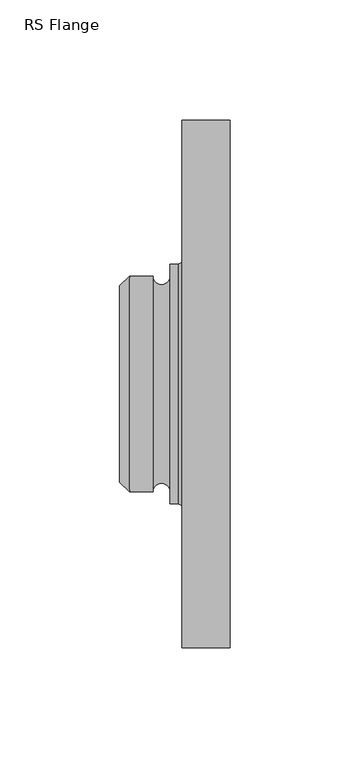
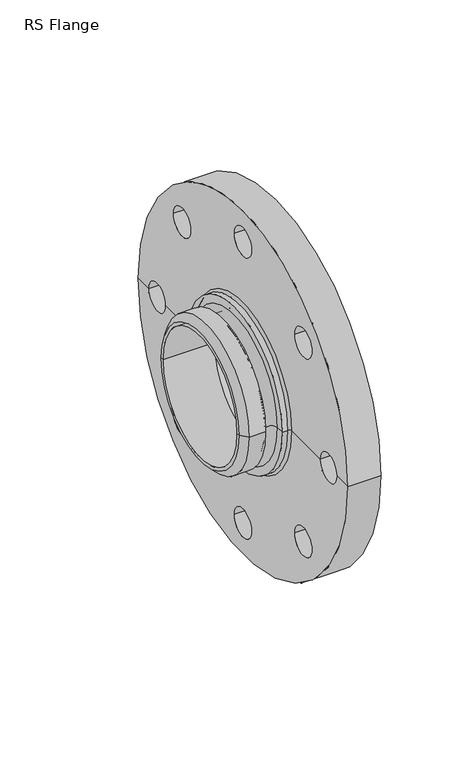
"""IFC4 building model written with IfcOpenShell, lengths in millimetres: pipe fitting geometry, RS Flange : Superpipe Flange Adapter - RS3 DN100 (PN16)."""

from ifc_helpers import new_model, si_unit, point, frame, origin, place, context, project, spatial, polyline, circle_curve, ellipse_curve, trimmed, source, transform, mapped, element, save
from ifc_brep_helpers import plane_surface, cylinder_surface, revolved_surface, advanced_brep


def rs_flange_74e88712(model_context):
    return source(origin(), model_context, "Body", "AdvancedBrep", [
        advanced_brep(
        [(0.0, -39.0, 0.0), (0.0, 39.0, 0.0), (0.0, 41.0, 0.0), (0.0, -41.0, 0.0), (31.0748159, -39.0, 0.0), (31.0748159, 39.0, 0.0), (46.0, -110.0, 0.0), (46.0, 110.0, 0.0), (46.0, 99.0, 0.0), (46.0, 81.0, 0.0), (46.0, 47.0, 0.0), (46.0, -47.0, 0.0), (46.0, -81.0, 0.0), (46.0, -99.0, 0.0), (46.0, 72.890873, -63.3883476), (46.0, 54.890873, -63.3883476), (46.0, 9.0, -90.0), (46.0, -9.0, -90.0), (46.0, -54.3883476, -63.3883476), (46.0, -72.3883476, -63.3883476), (46.0, -54.3883476, 63.890873), (46.0, -72.3883476, 63.890873), (46.0, 9.0, 90.0), (46.0, -9.0, 90.0), (46.0, 72.890873, 63.890873), (46.0, 54.890873, 63.890873), (26.0, -110.0, 0.0), (26.0, 110.0, 0.0), (26.0, -99.0, 0.0), (26.0, -81.0, 0.0), (26.0, -51.5, 0.0), (26.0, 51.5, 0.0), (26.0, 81.0, 0.0), (26.0, 99.0, 0.0), (26.0, 54.890873, -63.3883476), (26.0, 72.890873, -63.3883476), (26.0, -9.0, -90.0), (26.0, 9.0, -90.0), (26.0, -72.3883476, -63.3883476), (26.0, -54.3883476, -63.3883476), (26.0, -72.3883476, 63.890873), (26.0, -54.3883476, 63.890873), (26.0, -9.0, 90.0), (26.0, 9.0, 90.0), (26.0, 54.890873, 63.890873), (26.0, 72.890873, 63.890873), (24.5, -50.0, 0.0), (24.5, 50.0, 0.0), (21.0, -50.0, 0.0), (21.0, 50.0, 0.0), (21.0, -45.0, 0.0), (21.0, 45.0, 0.0), (13.8, -45.0, 0.0), (13.8, 45.0, 0.0), (4.0, -45.0, 0.0), (4.0, 45.0, 0.0)],
        [
            (0, 1, circle_curve(frame((0.0, 0.0, 0.0), z_axis=(1.0, 0.0, 0.0), x_axis=(0.0, 1.0, 0.0)), 39.0)),
            (1, 2),
            (2, 3, circle_curve(frame((0.0, 0.0, 0.0), z_axis=(-1.0, 0.0, 0.0), x_axis=(0.0, 1.0, 0.0)), 41.0)),
            (3, 0),
            (1, 0, circle_curve(frame((0.0, 0.0, 0.0), z_axis=(1.0, 0.0, 0.0), x_axis=(0.0, 1.0, 0.0)), 39.0)),
            (3, 2, circle_curve(frame((0.0, 0.0, 0.0), z_axis=(-1.0, 0.0, 0.0), x_axis=(0.0, 1.0, 0.0)), 41.0)),
            (0, 4),
            (4, 5, circle_curve(frame((31.0748159, 0.0, 0.0), z_axis=(1.0, 0.0, 0.0), x_axis=(0.0, 1.0, 0.0)), 39.0)),
            (5, 1),
            (5, 4, circle_curve(frame((31.0748159, 0.0, 0.0), z_axis=(1.0, 0.0, 0.0), x_axis=(0.0, 1.0, 0.0)), 39.0)),
            (6, 7, circle_curve(frame((46.0, 0.0, 0.0), z_axis=(1.0, 0.0, 0.0), x_axis=(0.0, 1.0, 0.0)), 110.0)),
            (7, 8),
            (8, 9, circle_curve(frame((46.0, 90.0, 0.0), z_axis=(-1.0, 0.0, 0.0), x_axis=(0.0, -1.0, 0.0)), 9.0)),
            (9, 10),
            (10, 11, circle_curve(frame((46.0, 0.0, 0.0), z_axis=(-1.0, 0.0, 0.0), x_axis=(0.0, 1.0, 0.0)), 47.0)),
            (11, 12),
            (12, 13, circle_curve(frame((46.0, -90.0, 0.0), z_axis=(-1.0, 0.0, 0.0), x_axis=(0.0, -1.0, 0.0)), 9.0)),
            (13, 6),
            (14, 15, circle_curve(frame((46.0, 63.890873, -63.3883476), z_axis=(-1.0, 0.0, 0.0), x_axis=(0.0, -1.0, 0.0)), 9.0)),
            (15, 14, circle_curve(frame((46.0, 63.890873, -63.3883476), z_axis=(-1.0, 0.0, 0.0), x_axis=(0.0, -1.0, 0.0)), 9.0)),
            (16, 17, circle_curve(frame((46.0, 0.0, -90.0), z_axis=(-1.0, 0.0, 0.0), x_axis=(0.0, -1.0, 0.0)), 9.0)),
            (17, 16, circle_curve(frame((46.0, 0.0, -90.0), z_axis=(-1.0, 0.0, 0.0), x_axis=(0.0, -1.0, 0.0)), 9.0)),
            (18, 19, circle_curve(frame((46.0, -63.3883476, -63.3883476), z_axis=(-1.0, 0.0, 0.0), x_axis=(0.0, -1.0, 0.0)), 9.0)),
            (19, 18, circle_curve(frame((46.0, -63.3883476, -63.3883476), z_axis=(-1.0, 0.0, 0.0), x_axis=(0.0, -1.0, 0.0)), 9.0)),
            (7, 6, circle_curve(frame((46.0, 0.0, 0.0), z_axis=(1.0, 0.0, 0.0), x_axis=(0.0, 1.0, 0.0)), 110.0)),
            (13, 12, circle_curve(frame((46.0, -90.0, 0.0), z_axis=(-1.0, 0.0, 0.0), x_axis=(0.0, -1.0, 0.0)), 9.0)),
            (11, 10, circle_curve(frame((46.0, 0.0, 0.0), z_axis=(-1.0, 0.0, 0.0), x_axis=(0.0, 1.0, 0.0)), 47.0)),
            (9, 8, circle_curve(frame((46.0, 90.0, 0.0), z_axis=(-1.0, 0.0, 0.0), x_axis=(0.0, -1.0, 0.0)), 9.0)),
            (20, 21, circle_curve(frame((46.0, -63.3883476, 63.890873), z_axis=(-1.0, 0.0, 0.0), x_axis=(0.0, -1.0, 0.0)), 9.0)),
            (21, 20, circle_curve(frame((46.0, -63.3883476, 63.890873), z_axis=(-1.0, 0.0, 0.0), x_axis=(0.0, -1.0, 0.0)), 9.0)),
            (22, 23, circle_curve(frame((46.0, 0.0, 90.0), z_axis=(-1.0, 0.0, 0.0), x_axis=(0.0, -1.0, 0.0)), 9.0)),
            (23, 22, circle_curve(frame((46.0, 0.0, 90.0), z_axis=(-1.0, 0.0, 0.0), x_axis=(0.0, -1.0, 0.0)), 9.0)),
            (24, 25, circle_curve(frame((46.0, 63.890873, 63.890873), z_axis=(-1.0, 0.0, 0.0), x_axis=(0.0, -1.0, 0.0)), 9.0)),
            (25, 24, circle_curve(frame((46.0, 63.890873, 63.890873), z_axis=(-1.0, 0.0, 0.0), x_axis=(0.0, -1.0, 0.0)), 9.0)),
            (6, 26),
            (26, 27, circle_curve(frame((26.0, 0.0, 0.0), z_axis=(1.0, 0.0, 0.0), x_axis=(0.0, 1.0, 0.0)), 110.0)),
            (27, 7),
            (27, 26, circle_curve(frame((26.0, 0.0, 0.0), z_axis=(1.0, 0.0, 0.0), x_axis=(0.0, 1.0, 0.0)), 110.0)),
            (26, 28),
            (28, 29, circle_curve(frame((26.0, -90.0, 0.0), z_axis=(1.0, 0.0, 0.0), x_axis=(0.0, -1.0, 0.0)), 9.0)),
            (29, 30),
            (30, 31, circle_curve(frame((26.0, 0.0, 0.0), z_axis=(1.0, 0.0, 0.0), x_axis=(0.0, 1.0, 0.0)), 51.5)),
            (31, 32),
            (32, 33, circle_curve(frame((26.0, 90.0, 0.0), z_axis=(1.0, 0.0, 0.0), x_axis=(0.0, -1.0, 0.0)), 9.0)),
            (33, 27),
            (34, 35, circle_curve(frame((26.0, 63.890873, -63.3883476), z_axis=(1.0, 0.0, 0.0), x_axis=(0.0, -1.0, 0.0)), 9.0)),
            (35, 34, circle_curve(frame((26.0, 63.890873, -63.3883476), z_axis=(1.0, 0.0, 0.0), x_axis=(0.0, -1.0, 0.0)), 9.0)),
            (36, 37, circle_curve(frame((26.0, 0.0, -90.0), z_axis=(1.0, 0.0, 0.0), x_axis=(0.0, -1.0, 0.0)), 9.0)),
            (37, 36, circle_curve(frame((26.0, 0.0, -90.0), z_axis=(1.0, 0.0, 0.0), x_axis=(0.0, -1.0, 0.0)), 9.0)),
            (38, 39, circle_curve(frame((26.0, -63.3883476, -63.3883476), z_axis=(1.0, 0.0, 0.0), x_axis=(0.0, -1.0, 0.0)), 9.0)),
            (39, 38, circle_curve(frame((26.0, -63.3883476, -63.3883476), z_axis=(1.0, 0.0, 0.0), x_axis=(0.0, -1.0, 0.0)), 9.0)),
            (33, 32, circle_curve(frame((26.0, 90.0, 0.0), z_axis=(1.0, 0.0, 0.0), x_axis=(0.0, -1.0, 0.0)), 9.0)),
            (31, 30, circle_curve(frame((26.0, 0.0, 0.0), z_axis=(1.0, 0.0, 0.0), x_axis=(0.0, 1.0, 0.0)), 51.5)),
            (29, 28, circle_curve(frame((26.0, -90.0, 0.0), z_axis=(1.0, 0.0, 0.0), x_axis=(0.0, -1.0, 0.0)), 9.0)),
            (40, 41, circle_curve(frame((26.0, -63.3883476, 63.890873), z_axis=(1.0, 0.0, 0.0), x_axis=(0.0, -1.0, 0.0)), 9.0)),
            (41, 40, circle_curve(frame((26.0, -63.3883476, 63.890873), z_axis=(1.0, 0.0, 0.0), x_axis=(0.0, -1.0, 0.0)), 9.0)),
            (42, 43, circle_curve(frame((26.0, 0.0, 90.0), z_axis=(1.0, 0.0, 0.0), x_axis=(0.0, -1.0, 0.0)), 9.0)),
            (43, 42, circle_curve(frame((26.0, 0.0, 90.0), z_axis=(1.0, 0.0, 0.0), x_axis=(0.0, -1.0, 0.0)), 9.0)),
            (44, 45, circle_curve(frame((26.0, 63.890873, 63.890873), z_axis=(1.0, 0.0, 0.0), x_axis=(0.0, -1.0, 0.0)), 9.0)),
            (45, 44, circle_curve(frame((26.0, 63.890873, 63.890873), z_axis=(1.0, 0.0, 0.0), x_axis=(0.0, -1.0, 0.0)), 9.0)),
            (30, 46, circle_curve(frame((24.5, -51.5, 0.0), z_axis=(0.0, 0.0, 1.0), x_axis=(1.0, 0.0, 0.0)), 1.5)),
            (46, 47, circle_curve(frame((24.5, 0.0, 0.0), z_axis=(1.0, 0.0, 0.0), x_axis=(0.0, 1.0, 0.0)), 50.0)),
            (47, 31, circle_curve(frame((24.5, 51.5, 0.0), z_axis=(0.0, 0.0, 1.0), x_axis=(1.0, 0.0, 0.0)), 1.5)),
            (47, 46, circle_curve(frame((24.5, 0.0, 0.0), z_axis=(1.0, 0.0, 0.0), x_axis=(0.0, 1.0, 0.0)), 50.0)),
            (46, 48),
            (48, 49, circle_curve(frame((21.0, 0.0, 0.0), z_axis=(1.0, 0.0, 0.0), x_axis=(0.0, 1.0, 0.0)), 50.0)),
            (49, 47),
            (49, 48, circle_curve(frame((21.0, 0.0, 0.0), z_axis=(1.0, 0.0, 0.0), x_axis=(0.0, 1.0, 0.0)), 50.0)),
            (48, 50),
            (50, 51, circle_curve(frame((21.0, 0.0, 0.0), z_axis=(1.0, 0.0, 0.0), x_axis=(0.0, 1.0, 0.0)), 45.0)),
            (51, 49),
            (51, 50, circle_curve(frame((21.0, 0.0, 0.0), z_axis=(1.0, 0.0, 0.0), x_axis=(0.0, 1.0, 0.0)), 45.0)),
            (50, 52, circle_curve(frame((17.4, -45.0, 0.0), z_axis=(0.0, 0.0, 1.0), x_axis=(1.0, 0.0, 0.0)), 3.6)),
            (52, 53, circle_curve(frame((13.8, 0.0, 0.0), z_axis=(1.0, 0.0, 0.0), x_axis=(0.0, 1.0, 0.0)), 45.0)),
            (53, 51, circle_curve(frame((17.4, 45.0, 0.0), z_axis=(0.0, 0.0, 1.0), x_axis=(1.0, 0.0, 0.0)), 3.6)),
            (53, 52, circle_curve(frame((13.8, 0.0, 0.0), z_axis=(1.0, 0.0, 0.0), x_axis=(0.0, 1.0, 0.0)), 45.0)),
            (52, 54),
            (54, 55, circle_curve(frame((4.0, 0.0, 0.0), z_axis=(1.0, 0.0, 0.0), x_axis=(0.0, 1.0, 0.0)), 45.0)),
            (55, 53),
            (55, 54, circle_curve(frame((4.0, 0.0, 0.0), z_axis=(1.0, 0.0, 0.0), x_axis=(0.0, 1.0, 0.0)), 45.0)),
            (2, 55),
            (54, 3),
            (28, 13),
            (12, 29),
            (20, 41),
            (40, 21),
            (42, 23),
            (22, 43),
            (24, 45),
            (44, 25),
            (32, 9),
            (8, 33),
            (14, 35),
            (34, 15),
            (36, 17),
            (16, 37),
            (18, 39),
            (38, 19),
            (4, 11),
            (10, 5),
        ],
        [
            plane_surface(frame((0.0, 0.0, 0.0), z_axis=(-1.0, 0.0, 0.0), x_axis=(0.0, 1.0, 0.0))),
            revolved_surface(polyline([(0.0, 39.0, 0.0), (31.074815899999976, 39.0, 0.0)]), (2000.0, 0.0, 0.0), (-1.0, 0.0, 0.0)),
            plane_surface(frame((46.0, 0.0, 0.0), z_axis=(1.0, 0.0, 0.0), x_axis=(0.0, 1.0, 0.0))),
            cylinder_surface(frame((2000.0, 0.0, 0.0), z_axis=(-1.0, 0.0, 0.0), x_axis=(0.0, 1.0, 0.0)), 110.0),
            plane_surface(frame((26.0, 0.0, 0.0), z_axis=(-1.0, 0.0, 0.0), x_axis=(0.0, 1.0, 0.0))),
            revolved_surface(trimmed(ellipse_curve(frame((24.5, 51.5, 0.0), z_axis=(0.0, 0.0, -1.0), x_axis=(1.0, 0.0, 0.0)), 1.5, 1.5), [point((26.0, 51.5, 0.0))], [point((24.5, 50.0, 0.0))], True, "CARTESIAN"), (2000.0, 0.0, 0.0), (-1.0, 0.0, 0.0)),
            cylinder_surface(frame((2000.0, 0.0, 0.0), z_axis=(-1.0, 0.0, 0.0), x_axis=(0.0, 1.0, 0.0)), 50.0),
            plane_surface(frame((21.0, 0.0, 0.0), z_axis=(-1.0, 0.0, 0.0), x_axis=(0.0, 1.0, 0.0))),
            revolved_surface(trimmed(ellipse_curve(frame((17.4, 45.0, 0.0), z_axis=(0.0, 0.0, -1.0), x_axis=(1.0, 0.0, 0.0)), 3.6, 3.6), [point((21.0, 45.0, 0.0))], [point((13.8, 45.0, 0.0))], True, "CARTESIAN"), (2000.0, 0.0, 0.0), (-1.0, 0.0, 0.0)),
            cylinder_surface(frame((2000.0, 0.0, 0.0), z_axis=(-1.0, 0.0, 0.0), x_axis=(0.0, 1.0, 0.0)), 45.0),
            revolved_surface(polyline([(4.0, 45.0, 0.0), (0.0, 41.0, 0.0)]), (2000.0, 0.0, 0.0), (-1.0, 0.0, 0.0)),
            revolved_surface(polyline([(26.0, -99.0, 0.0), (46.0, -99.0, 0.0)]), (46.0, -90.0, 0.0), (-1.0, 0.0, 0.0)),
            revolved_surface(polyline([(26.0, -72.3883476, 63.890873), (46.0, -72.3883476, 63.890873)]), (145.0, -63.3883476, 63.890873), (-1.0, 0.0, 0.0)),
            revolved_surface(polyline([(26.0, -9.0, 90.0), (46.0, -9.0, 90.0)]), (46.0, 0.0, 90.0), (-1.0, 0.0, 0.0)),
            revolved_surface(polyline([(26.0, 54.890873, 63.890873), (46.0, 54.890873, 63.890873)]), (145.0, 63.890873, 63.890873), (-1.0, 0.0, 0.0)),
            revolved_surface(polyline([(26.0, 81.0, 0.0), (46.0, 81.0, 0.0)]), (46.0, 90.0, 0.0), (-1.0, 0.0, 0.0)),
            revolved_surface(polyline([(26.0, 54.890873, -63.3883476), (46.0, 54.890873, -63.3883476)]), (145.0, 63.890873, -63.3883476), (-1.0, 0.0, 0.0)),
            revolved_surface(polyline([(26.0, -9.0, -90.0), (46.0, -9.0, -90.0)]), (46.0, 0.0, -90.0), (-1.0, 0.0, 0.0)),
            revolved_surface(polyline([(26.0, -72.3883476, -63.3883476), (46.0, -72.3883476, -63.3883476)]), (145.0, -63.3883476, -63.3883476), (-1.0, 0.0, 0.0)),
            revolved_surface(polyline([(31.0748159, 39.0, 0.0), (46.0, 47.0, 0.0)]), (2000.0, 0.0, 0.0), (-1.0, 0.0, 0.0)),
        ],
        [
            (0, [[1, 2, 3, 4]]),
            (0, [[-2, 5, -4, 6]]),
            (1, [[-1, 7, 8, 9]]),
            (1, [[-5, -9, 10, -7]]),
            (2, [[11, 12, 13, 14, 15, 16, 17, 18], [19, 20], [21, 22], [23, 24]]),
            (2, [[25, -18, 26, -16, 27, -14, 28, -12], [29, 30], [31, 32], [33, 34]]),
            (3, [[-11, 35, 36, 37]]),
            (3, [[-25, -37, 38, -35]]),
            (4, [[-36, 39, 40, 41, 42, 43, 44, 45], [46, 47], [48, 49], [50, 51]]),
            (4, [[-38, -45, 52, -43, 53, -41, 54, -39], [55, 56], [57, 58], [59, 60]]),
            (5, [[-42, 61, 62, 63]]),
            (5, [[-53, -63, 64, -61]]),
            (6, [[-62, 65, 66, 67]]),
            (6, [[-64, -67, 68, -65]]),
            (7, [[-66, 69, 70, 71]]),
            (7, [[-68, -71, 72, -69]]),
            (8, [[-70, 73, 74, 75]]),
            (8, [[-72, -75, 76, -73]]),
            (9, [[-74, 77, 78, 79]]),
            (9, [[-76, -79, 80, -77]]),
            (10, [[-3, 81, -78, 82]]),
            (10, [[-6, -82, -80, -81]]),
            (11, [[83, -17, 84, -40]]),
            (11, [[-83, -54, -84, -26]]),
            (12, [[85, -55, 86, -29]]),
            (12, [[-85, -30, -86, -56]]),
            (13, [[87, -31, 88, -57]]),
            (13, [[-87, -58, -88, -32]]),
            (14, [[89, -59, 90, -33]]),
            (14, [[-89, -34, -90, -60]]),
            (15, [[91, -13, 92, -44]]),
            (15, [[-91, -52, -92, -28]]),
            (16, [[93, -46, 94, -19]]),
            (16, [[-93, -20, -94, -47]]),
            (17, [[95, -21, 96, -48]]),
            (17, [[-95, -49, -96, -22]]),
            (18, [[97, -50, 98, -23]]),
            (18, [[-97, -24, -98, -51]]),
            (19, [[-8, 99, -15, 100]]),
            (19, [[-10, -100, -27, -99]]),
        ],
    ),
    ])


if __name__ == "__main__":
    model = new_model("IFC4")
    model_context = context("Model", 3, world=origin())
    ifc_project = project(units=[si_unit("LENGTHUNIT", "METRE", prefix="MILLI")], contexts=[model_context])
    site = spatial("IfcSite", under=ifc_project)
    building = spatial("IfcBuilding", under=site)
    placement = place(None, origin())
    rs_flange_shape = rs_flange_74e88712(model_context)
    element("IfcPipeFitting", 1, ObjectType="RS Flange : Superpipe Flange Adapter - RS3 DN100 (PN16)", at=placement, inside=building, context=model_context, shape_type="MappedRepresentation", body=[
        mapped(rs_flange_shape, transform((0.0, 0.0, 0.0), x_axis=(1.0, 0.0, 0.0), y_axis=(0.0, 1.0, 0.0), z_axis=(0.0, 0.0, 1.0))),
    ])
    save(model, "model.ifc")
